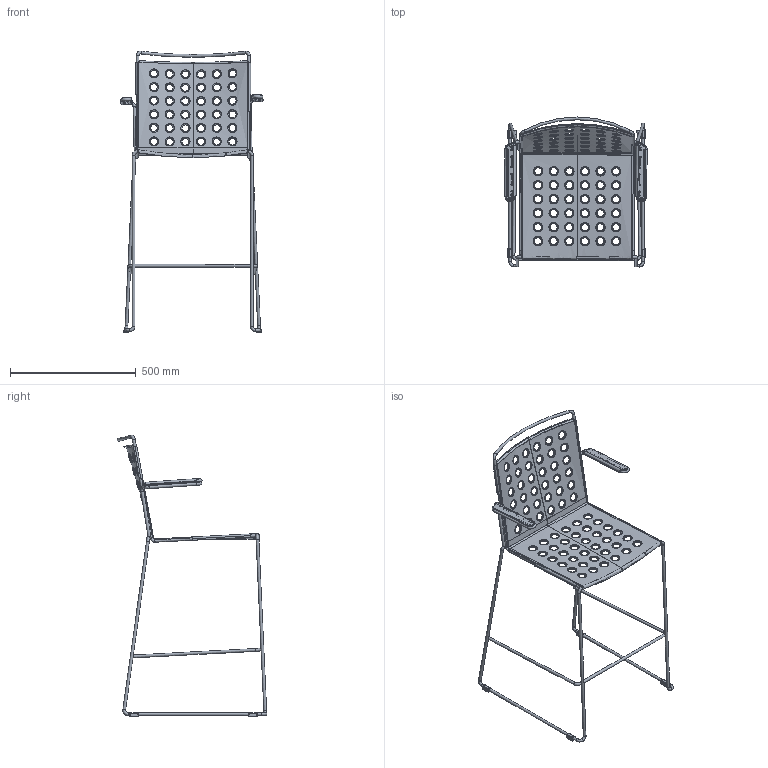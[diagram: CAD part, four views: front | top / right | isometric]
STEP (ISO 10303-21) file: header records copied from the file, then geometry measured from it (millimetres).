
FILE_DESCRIPTION(('STEP AP203'),'1');
FILE_NAME('Sgabello Alto Busy con braccioli.step','2018-07-16T06:40:49',(' '),(' '),'Spatial InterOp 3D',' ',' ');
FILE_SCHEMA(('CONFIG_CONTROL_DESIGN'));
Length unit declared in the file: millimetre
Products named in the file (1): 1
Bounding box: 564.8 x 593.81 x 1118.59 mm (x, y, z)
Volume: 1810335.5 mm3; surface area: 1113892 mm2
Topology: 122 solids, 122 shells, 4639 faces, 11548 edges, 7317 vertices
Faces by surface type: plane 2366, cylinder 1323, extrusion 360, bspline 346, torus 182, sphere 58, offset 2, cone 2
Full cylindrical faces by diameter (mm): 1.6 x8, 3.6 x8, 5.7 x8, 6 x24, 11 x31, 36 x4, 37 x8
Entity records: 184271 total; most frequent: CARTESIAN_POINT 82514, ORIENTED_EDGE 21772, DIRECTION 18506, EDGE_CURVE 10886, VERTEX_POINT 7108, AXIS2_PLACEMENT_3D 6992, EDGE_LOOP 5608, FACE_OUTER_BOUND 4948
